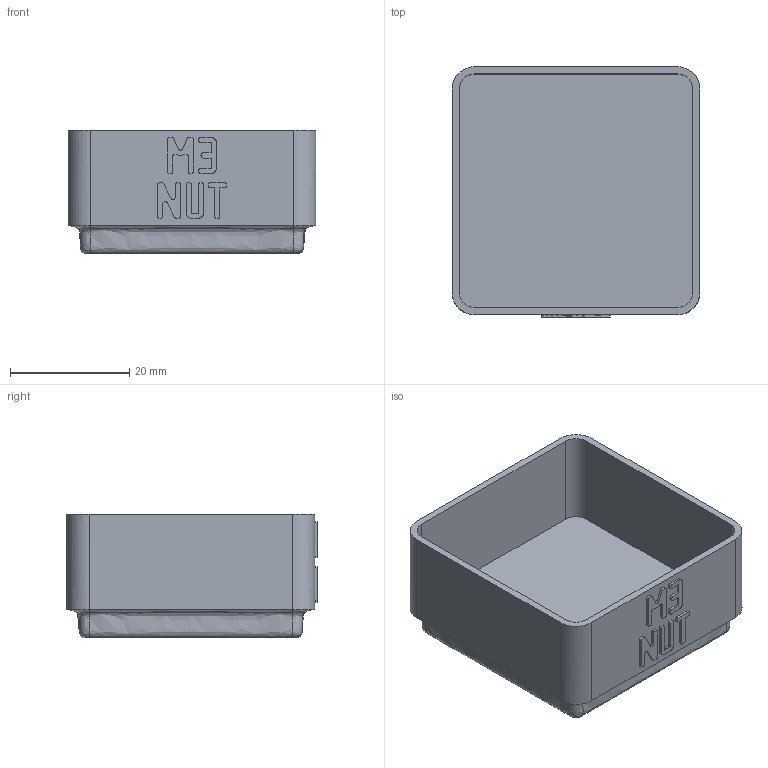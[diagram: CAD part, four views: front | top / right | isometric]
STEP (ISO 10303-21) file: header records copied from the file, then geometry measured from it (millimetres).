
FILE_DESCRIPTION(('Open CASCADE Model'),'2;1');
FILE_NAME('Open CASCADE Shape Model','2026-11-03T15:27:41',('Author'),( 'Open CASCADE'),'Open CASCADE STEP processor 8.0','build123d', 'Unknown');
FILE_SCHEMA(('AUTOMOTIVE_DESIGN { 1 0 10303 214 1 1 1 1 }'));
Length unit declared in the file: millimetre
Products named in the file (1): COMPOUND
Bounding box: 41.5 x 41.9 x 20.75 mm (x, y, z)
Volume: 9649.4 mm3; surface area: 8985.7 mm2
Topology: 1 solids, 1 shells, 482 faces, 1414 edges, 940 vertices
Faces by surface type: plane 466, bspline 8, cylinder 8
Entity records: 33586 total; most frequent: CARTESIAN_POINT 7153, DIRECTION 4248, LINE 3270, VECTOR 3270, ORIENTED_EDGE 2828, PCURVE 2828, DEFINITIONAL_REPRESENTATION 2828, EDGE_CURVE 1414
